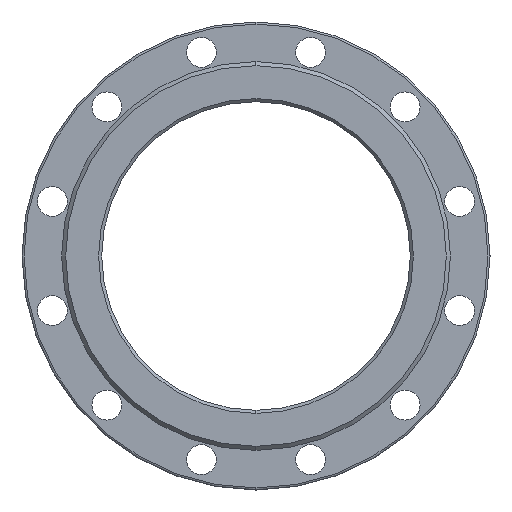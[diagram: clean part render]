
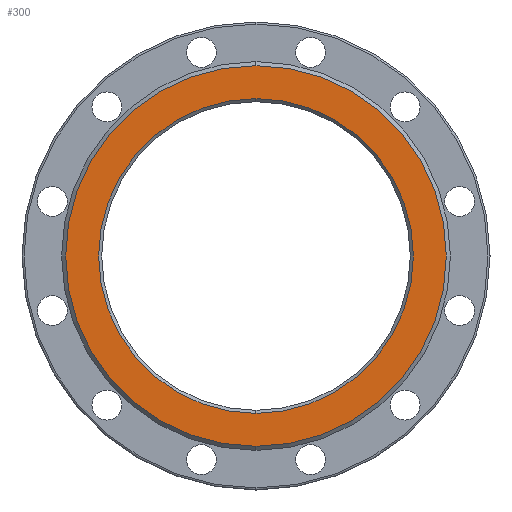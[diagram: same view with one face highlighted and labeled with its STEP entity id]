
A CAD part, left-side view. The second image highlights one B-rep face of the part: STEP entity #300.
In plain terms, the highlighted planar face has unit normal (-1, 0, 0).
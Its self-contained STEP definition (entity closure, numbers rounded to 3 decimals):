
#146 = ORIENTED_EDGE ( 'NONE', *, *, #1470, .T. ) ;
#199 = ORIENTED_EDGE ( 'NONE', *, *, #3114, .T. ) ;
#262 = EDGE_CURVE ( 'Defeatured_0_3+Defeatured_0_26+Defeatured_0_26+Defeatured_0_26', #2171, #2497, #1443, .T. ) ;
#300 = ADVANCED_FACE ( 'Defeatured_0_3', ( #4308, #923 ), #3198, .F. ) ;
#424 = AXIS2_PLACEMENT_3D ( 'NONE', #1448, #4493, #1015 ) ;
#456 = CARTESIAN_POINT ( 'NONE',  ( -350., 0., -185. ) ) ;
#643 = DIRECTION ( 'NONE',  ( 0., 0., 1. ) ) ;
#662 = AXIS2_PLACEMENT_3D ( 'NONE', #1314, #2053, #1631 ) ;
#693 = CARTESIAN_POINT ( 'NONE',  ( -350., 0., 0. ) ) ;
#892 = AXIS2_PLACEMENT_3D ( 'NONE', #693, #3691, #643 ) ;
#923 = FACE_OUTER_BOUND ( 'NONE', #2311, .T. ) ;
#1015 = DIRECTION ( 'NONE',  ( 0., 0., -1. ) ) ;
#1117 = CARTESIAN_POINT ( 'NONE',  ( -350., 0., 0. ) ) ;
#1314 = CARTESIAN_POINT ( 'NONE',  ( -350., 0., 0. ) ) ;
#1443 = CIRCLE ( 'NONE', #662, 153. ) ;
#1448 = CARTESIAN_POINT ( 'NONE',  ( -350., 0., 0. ) ) ;
#1470 = EDGE_CURVE ( 'Defeatured_0_3+Defeatured_0_4+Defeatured_0_4+Defeatured_0_4', #2896, #2062, #1755, .T. ) ;
#1631 = DIRECTION ( 'NONE',  ( 0., 0., -1. ) ) ;
#1755 = CIRCLE ( 'NONE', #892, 185. ) ;
#2030 = DIRECTION ( 'NONE',  ( 0., 0., -1. ) ) ;
#2053 = DIRECTION ( 'NONE',  ( 1., 0., 0. ) ) ;
#2062 = VERTEX_POINT ( 'NONE', #456 ) ;
#2063 = ORIENTED_EDGE ( 'NONE', *, *, #262, .T. ) ;
#2080 = AXIS2_PLACEMENT_3D ( 'NONE', #4699, #3934, #2030 ) ;
#2146 = ORIENTED_EDGE ( 'NONE', *, *, #3540, .T. ) ;
#2171 = VERTEX_POINT ( 'NONE', #3847 ) ;
#2311 = EDGE_LOOP ( 'NONE', ( #2146, #146 ) ) ;
#2488 = AXIS2_PLACEMENT_3D ( 'NONE', #1117, #4158, #2644 ) ;
#2497 = VERTEX_POINT ( 'NONE', #4212 ) ;
#2644 = DIRECTION ( 'NONE',  ( 0., 0., 1. ) ) ;
#2896 = VERTEX_POINT ( 'NONE', #4645 ) ;
#3114 = EDGE_CURVE ( 'Defeatured_0_3+Defeatured_0_26+Defeatured_0_26+Defeatured_0_26', #2497, #2171, #3507, .T. ) ;
#3198 = PLANE ( 'NONE',  #2080 ) ;
#3507 = CIRCLE ( 'NONE', #424, 153. ) ;
#3540 = EDGE_CURVE ( 'Defeatured_0_3+Defeatured_0_4+Defeatured_0_4+Defeatured_0_4', #2062, #2896, #4465, .T. ) ;
#3671 = EDGE_LOOP ( 'NONE', ( #199, #2063 ) ) ;
#3691 = DIRECTION ( 'NONE',  ( -1., 0., 0. ) ) ;
#3847 = CARTESIAN_POINT ( 'NONE',  ( -350., 0., -153. ) ) ;
#3934 = DIRECTION ( 'NONE',  ( 1., 0., 0. ) ) ;
#4158 = DIRECTION ( 'NONE',  ( -1., 0., 0. ) ) ;
#4212 = CARTESIAN_POINT ( 'NONE',  ( -350., 0., 153. ) ) ;
#4308 = FACE_BOUND ( 'NONE', #3671, .T. ) ;
#4465 = CIRCLE ( 'NONE', #2488, 185. ) ;
#4493 = DIRECTION ( 'NONE',  ( 1., 0., 0. ) ) ;
#4645 = CARTESIAN_POINT ( 'NONE',  ( -350., 0., 185. ) ) ;
#4699 = CARTESIAN_POINT ( 'NONE',  ( -350., 150., 0. ) ) ;
